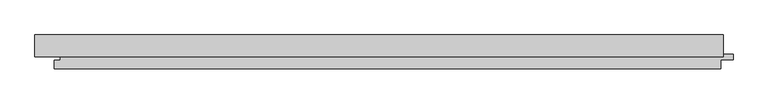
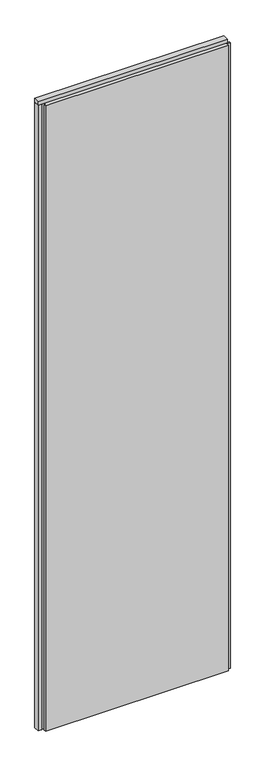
"""IFC4 building model written with IfcOpenShell, lengths in millimetres: plate geometry, Trimo_Qbiss Screen_Normal Panel-VERTICAL : HR - FB-F."""

import ifcopenshell
import ifcopenshell.guid

model = None  # the IFC model being written
_history = None  # IfcOwnerHistory: only IFC2X3 demands one
_inside = {}  # id of a spatial element -> (the spatial element, [elements in it])
_under = {}  # id of a project, library or spatial element -> (it, [spatial elements below it])
_declared = {}  # id of a project -> (the project, [libraries it declares])
_typed = {}  # id of a type object -> (the type object, [elements of that type])
_made_of = {}  # id of a material, layer set ... -> (it, [elements and type objects made of it])


def new_model(schema):
    """Start an empty IFC model of exactly this schema.

    Asked for "IFC4X3", IfcOpenShell would pick the latest addendum, in which some entities
    have other attributes; the version numbers below select the first issue.
    IFC2X3 requires an IfcOwnerHistory on every rooted entity: one is made here for all.
    """
    global model, _history
    if schema == "IFC4X3":
        model = ifcopenshell.file(schema_version=(4, 3, 0, 0))
    else:
        model = ifcopenshell.file(schema=schema)
    _inside.clear()
    _under.clear()
    _declared.clear()
    _typed.clear()
    _made_of.clear()
    _history = None
    if model.schema == "IFC2X3":
        org = make("IfcOrganization", Name="unknown")
        user = make(
            "IfcPersonAndOrganization",
            ThePerson=make("IfcPerson", FamilyName="unknown"),
            TheOrganization=org,
        )
        app = make(
            "IfcApplication",
            ApplicationDeveloper=org,
            Version="unknown",
            ApplicationFullName="unknown",
            ApplicationIdentifier="unknown",
        )
        _history = make(
            "IfcOwnerHistory",
            OwningUser=user,
            OwningApplication=app,
            ChangeAction="ADDED",
            CreationDate=0,
        )
    return model


def make(cls, **values):
    """One entity of the class cls with the attributes given. An attribute that is None is left unset."""
    return model.create_entity(
        cls, **{name: value for name, value in values.items() if value is not None}
    )


def rooted(cls, **values):
    """An entity with a GlobalId (a new one), such as an element, a storey or a relation."""
    return make(cls, GlobalId=ifcopenshell.guid.new(), OwnerHistory=_history, **values)


def si_unit(unit_type, name, prefix=None):
    """IfcSIUnit, for example si_unit("LENGTHUNIT", "METRE", prefix="MILLI")."""
    return make("IfcSIUnit", UnitType=unit_type, Prefix=prefix, Name=name)


def assignment(units):
    """IfcUnitAssignment: the units of a project."""
    return None if units is None else make("IfcUnitAssignment", Units=units)


def point(xyz):
    """IfcCartesianPoint."""
    return None if xyz is None else make("IfcCartesianPoint", Coordinates=xyz)


def direction(xyz):
    """IfcDirection."""
    return None if xyz is None else make("IfcDirection", DirectionRatios=xyz)


def frame(location, z_axis=None, x_axis=None):
    """IfcAxis2Placement3D, a coordinate frame: its origin and axes. An axis left out is left unset."""
    return make(
        "IfcAxis2Placement3D",
        Location=point(location),
        Axis=direction(z_axis),
        RefDirection=direction(x_axis),
    )


def origin():
    """The frame at (0, 0, 0) with its axes left unset."""
    return frame((0.0, 0.0, 0.0))


def place(relative_to, where):
    """IfcLocalPlacement: puts the frame where relative to a parent placement (None: the world)."""
    return make(
        "IfcLocalPlacement", PlacementRelTo=relative_to, RelativePlacement=where
    )


def context(
    kind, dimensions, precision=None, world=None, true_north=None, identifier=None
):
    """IfcGeometricRepresentationContext, for example the 3D "Model" context."""
    return make(
        "IfcGeometricRepresentationContext",
        ContextIdentifier=identifier,
        ContextType=kind,
        CoordinateSpaceDimension=dimensions,
        Precision=precision,
        WorldCoordinateSystem=world,
        TrueNorth=true_north,
    )


def project(units=None, contexts=None):
    """IfcProject with its units and contexts."""
    return rooted(
        "IfcProject",
        Name="project",
        RepresentationContexts=contexts,
        UnitsInContext=assignment(units),
    )


def spatial(cls, under=None, at=None, **own):
    """A site, building, storey or space (cls), placed at a placement, below another one or the project."""
    s = rooted(cls, ObjectPlacement=at, **own)
    if under is not None:
        _under.setdefault(under.id(), (under, []))[1].append(s)
    return s


def polyline(points):
    """IfcPolyline through the points."""
    return make("IfcPolyline", Points=[point(p) for p in points])


def outline(outer, holes=None, kind="AREA"):
    """IfcArbitraryClosedProfileDef: a profile drawn as a closed curve; with holes, ...WithVoids."""
    if holes is None:
        return make("IfcArbitraryClosedProfileDef", ProfileType=kind, OuterCurve=outer)
    return make(
        "IfcArbitraryProfileDefWithVoids",
        ProfileType=kind,
        OuterCurve=outer,
        InnerCurves=holes,
    )


def extrude(swept, where, along, depth):
    """IfcExtrudedAreaSolid: the profile swept, set in the frame where, extruded along a direction by depth."""
    return make(
        "IfcExtrudedAreaSolid",
        SweptArea=swept,
        Position=where,
        ExtrudedDirection=direction(along),
        Depth=depth,
    )


def shape(context_of_items, identifier, shape_type, items):
    """IfcShapeRepresentation: the items that make up one representation, for example the "Body"."""
    return make(
        "IfcShapeRepresentation",
        ContextOfItems=context_of_items,
        RepresentationIdentifier=identifier,
        RepresentationType=shape_type,
        Items=items,
    )


def source(mapping_origin, context_of_items, identifier, shape_type, items):
    """IfcRepresentationMap: a shape defined once, which mapped items show again and again."""
    return make(
        "IfcRepresentationMap",
        MappingOrigin=mapping_origin,
        MappedRepresentation=shape(context_of_items, identifier, shape_type, items),
    )


def transform(
    local_origin,
    x_axis=None,
    y_axis=None,
    z_axis=None,
    scale=None,
    scale2=None,
    scale3=None,
    uniform=True,
):
    """IfcCartesianTransformationOperator3D, or its non-uniform kind. x_axis, y_axis, z_axis: its Axis1, 2, 3."""
    if uniform:
        return make(
            "IfcCartesianTransformationOperator3D",
            Axis1=direction(x_axis),
            Axis2=direction(y_axis),
            LocalOrigin=point(local_origin),
            Scale=scale,
            Axis3=direction(z_axis),
        )
    return make(
        "IfcCartesianTransformationOperator3DnonUniform",
        Axis1=direction(x_axis),
        Axis2=direction(y_axis),
        LocalOrigin=point(local_origin),
        Scale=scale,
        Axis3=direction(z_axis),
        Scale2=scale2,
        Scale3=scale3,
    )


def mapped(mapping_source, mapping_target):
    """IfcMappedItem: shows the shape of a source again, moved by a transform."""
    return make(
        "IfcMappedItem", MappingSource=mapping_source, MappingTarget=mapping_target
    )


def made_of(thing, what):
    """Note that an element or type object is made of a material, layer set ...; save() writes the relation."""
    if what is not None:
        _made_of.setdefault(what.id(), (what, []))[1].append(thing)
    return thing


def element(
    cls,
    number,
    at=None,
    inside=None,
    cuts=None,
    type_object=None,
    material=None,
    context=None,
    identifier="Body",
    shape_type=None,
    held_by="IfcProductDefinitionShape",
    body=None,
    shapes=None,
    **own,
):
    """One element of the class cls, such as IfcWall. Its Tag is "e" and its number.

    at: its placement. inside: the storey or other place that contains it. cuts: it is an
    opening in that element (IfcRelVoidsElement). A single representation is given by context,
    identifier, shape_type and body (its items); several are given by shapes. held_by: the class
    of the entity that holds the representations. save() writes the other relations.
    """
    e = rooted(cls, Tag="e%d" % number, ObjectPlacement=at, **own)
    if body is not None:
        shapes = [shape(context, identifier, shape_type, body)]
    if shapes is not None:
        e.Representation = make(held_by, Representations=shapes)
    if inside is not None:
        _inside.setdefault(inside.id(), (inside, []))[1].append(e)
    if cuts is not None:
        rooted(
            "IfcRelVoidsElement", RelatingBuildingElement=cuts, RelatedOpeningElement=e
        )
    if type_object is not None:
        _typed.setdefault(type_object.id(), (type_object, []))[1].append(e)
    return made_of(e, material)


def aggregate(whole, parts):
    """IfcRelAggregates: a whole, such as a stair, and the parts it consists of."""
    return rooted("IfcRelAggregates", RelatingObject=whole, RelatedObjects=parts)


def save(model, path):
    """Write the relations noted so far, then the file.

    IfcRelAggregates (storeys below a building ...), IfcRelContainedInSpatialStructure (elements
    in a storey), IfcRelDefinesByType, IfcRelAssociatesMaterial and IfcRelDeclares: one each for
    every whole, place, type object, material and project.
    """
    for whole, parts in _under.values():
        aggregate(whole, parts)
    for where, things in _inside.values():
        rooted(
            "IfcRelContainedInSpatialStructure",
            RelatedElements=things,
            RelatingStructure=where,
        )
    for kind, things in _typed.values():
        rooted("IfcRelDefinesByType", RelatedObjects=things, RelatingType=kind)
    for what, things in _made_of.values():
        rooted("IfcRelAssociatesMaterial", RelatedObjects=things, RelatingMaterial=what)
    for by, libraries in _declared.values():
        rooted("IfcRelDeclares", RelatingContext=by, RelatedDefinitions=libraries)
    model.write(path)


def plate_4d4ffbcd(model_context):
    return source(origin(), model_context, "Body", "SweptSolid", [
        extrude(outline(polyline([(-523.0, 97.0), (-523.0, 126.0), (-504.0, 126.0), (-504.0, 97.0), (-523.0, 97.0)])), frame((0.0, 0.0, 12.5), z_axis=(0.0, 0.0, 1.0), x_axis=(1.0, 0.0, 0.0)), (0.0, 0.0, 1.0), 3575.0),
        extrude(outline(polyline([(-523.0, 93.9), (-523.0, 126.0), (500.0, 126.0), (500.0, 93.9), (-523.0, 93.9)])), frame((0.0, 0.0, 3590.5), z_axis=(0.0, 0.0, 1.0), x_axis=(1.0, 0.0, 0.0)), (0.0, 0.0, 1.0), 19.0),
        extrude(outline(polyline([(496.0, 97.0), (514.5, 97.0), (514.5, 89.0), (496.0, 89.0), (496.0, 76.0), (-494.0, 76.0), (-494.0, 88.0), (-485.5, 88.0), (-485.5, 98.0), (-501.0, 98.0), (-501.0, 126.0), (496.0, 126.0), (496.0, 97.0)])), frame((0.0, 0.0, 12.5), z_axis=(0.0, 0.0, 1.0), x_axis=(1.0, 0.0, 0.0)), (0.0, 0.0, 1.0), 3575.0),
    ])


if __name__ == "__main__":
    model = new_model("IFC4")
    model_context = context("Model", 3, world=origin())
    ifc_project = project(units=[si_unit("LENGTHUNIT", "METRE", prefix="MILLI")], contexts=[model_context])
    site = spatial("IfcSite", under=ifc_project)
    building = spatial("IfcBuilding", under=site)
    placement = place(None, origin())
    plate_shape = plate_4d4ffbcd(model_context)
    element("IfcPlate", 1, ObjectType="Trimo_Qbiss Screen_Normal Panel-VERTICAL : HR - FB-F", at=placement, inside=building, context=model_context, shape_type="MappedRepresentation", body=[
        mapped(plate_shape, transform((0.0, 0.0, 0.0), x_axis=(1.0, 0.0, 0.0), y_axis=(0.0, 1.0, 0.0), z_axis=(0.0, 0.0, 1.0))),
    ])
    save(model, "model.ifc")
